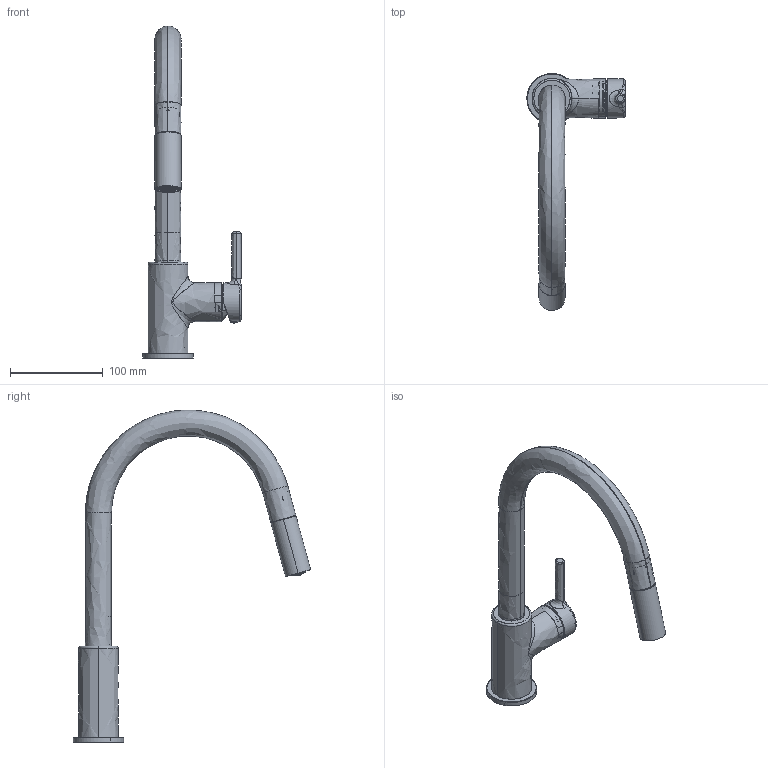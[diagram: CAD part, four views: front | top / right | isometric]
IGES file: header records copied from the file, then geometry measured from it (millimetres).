
Global section: file name: F:\_CONVERSIONE_CAD_2024_2025\PACCHETTI_2026\NUOVI_PACCHETTI_LUGLIO\PRIORITY_3\3D001_Taps_Lina_J-Pull-Down-Nozzle\3D001_Taps_Lina_J-Pull-Down-Nozzle.igs; native system: Rhinoceros ( May  6 2026 ); preprocessor: Trout Lake IGES 012 May  6 2026; date: 260806.124157; units: millimetre
Bounding box: 105.67 x 255.37 x 357.28 mm (x, y, z)
Surface area: 160062.8 mm2 (no closed solid volume)
Topology: 0 solids, 0 shells, 1931 faces, 12829 edges, 12804 vertices
Faces by surface type: bspline 1931
